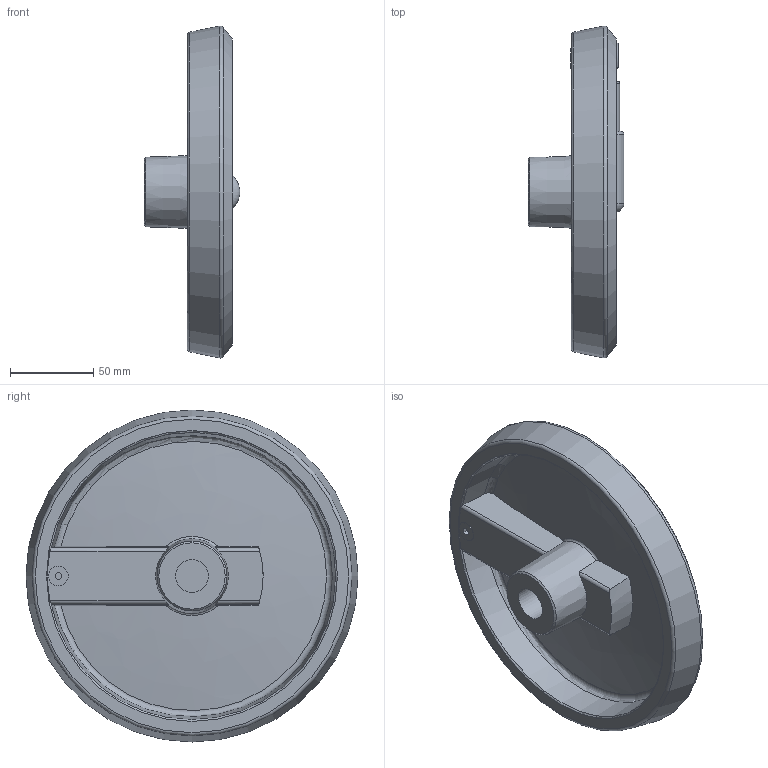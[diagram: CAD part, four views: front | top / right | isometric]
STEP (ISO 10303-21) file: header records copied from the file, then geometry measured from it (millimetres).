
FILE_DESCRIPTION( ( 'STEP AP203' ), '1' );
FILE_NAME( 'C:/Temp/Ganter_Step_05_03_2020/data/1_3/gn_923_7/gn_923_7_b/Handwheel with retractable handle GN 923.7-200-B20-R-SW (unactivated).stp', '2020-03-05T10:40:15', ( 'License CC BY-ND 4.0' ), ( 'CADENAS' ), ' ', 'PARTsolutions', ' ' );
FILE_SCHEMA( ( 'CONFIG_CONTROL_DESIGN' ) );
Length unit declared in the file: millimetre
Products named in the file (3): Handwheel with retractable handle GN 923.7-200-B20-R-SW (unactivated); _Umleggriff-Handrad GN 923.7-200-B20-R-SW-1; _Umleggriff-Handrad GN 923.7-200-B20-R-SW (0)-2
Assembly tree (2 placements, depth 2):
  Handwheel with retractable handle GN 923.7-200-B20-R-SW (unactivated)
    _Umleggriff-Handrad GN 923.7-200-B20-R-SW-1
    _Umleggriff-Handrad GN 923.7-200-B20-R-SW (0)-2
Bounding box: 57.7 x 200 x 200 mm (x, y, z)
Volume: 399927 mm3; surface area: 108547.7 mm2
Topology: 2 solids, 2 shells, 109 faces, 263 edges, 167 vertices
Faces by surface type: plane 44, cylinder 29, cone 14, torus 14, bspline 6, sphere 2
Full cylindrical faces by diameter (mm): 4 x2, 5 x1, 8 x1, 12 x1, 15 x1, 20 x3, 23 x2, 25 x1
Entity records: 3545 total; most frequent: CARTESIAN_POINT 1068, DIRECTION 495, ORIENTED_EDGE 456, EDGE_CURVE 228, AXIS2_PLACEMENT_3D 211, VERTEX_POINT 162, EDGE_LOOP 149, FACE_OUTER_BOUND 128
